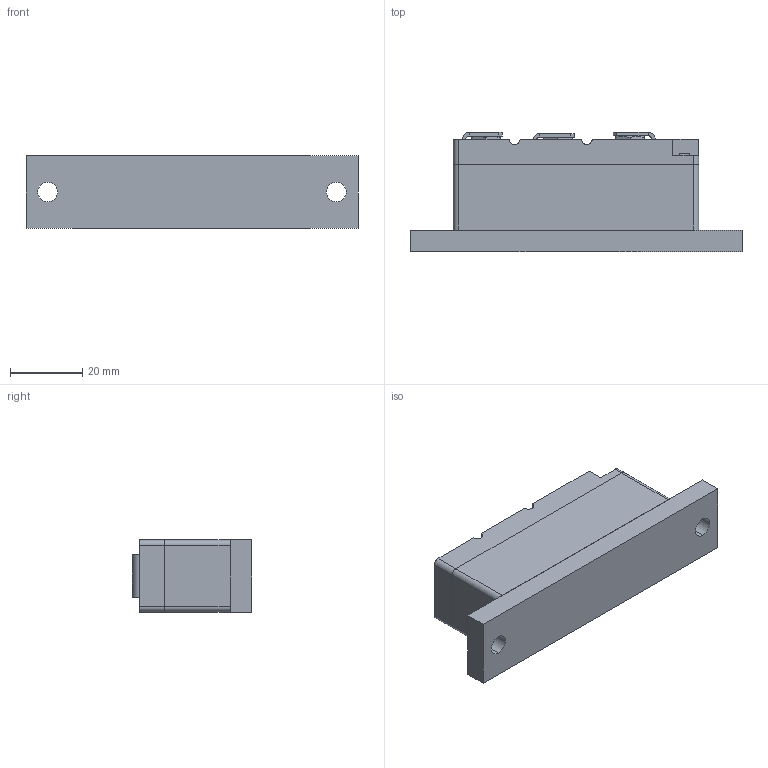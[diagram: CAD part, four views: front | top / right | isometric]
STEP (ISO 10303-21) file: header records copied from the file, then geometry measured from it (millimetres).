
FILE_DESCRIPTION (( 'STEP AP214' ), '1' );
FILE_NAME ('MTD1.STEP', '2021-02-05T10:15:06', ( '' ), ( '' ), 'SwSTEP 2.0', 'SolidWorks 2018', '' );
FILE_SCHEMA (( 'AUTOMOTIVE_DESIGN' ));
Length unit declared in the file: millimetre
Products named in the file (1): MTD1
Bounding box: 92 x 33.13 x 20 mm (x, y, z)
Volume: 24475 mm3; surface area: 21737.3 mm2
Topology: 14 solids, 14 shells, 363 faces, 929 edges, 599 vertices
Faces by surface type: plane 271, cylinder 73, cone 16, sphere 2, bspline 1
Entity records: 15404 total; most frequent: CARTESIAN_POINT 2258, ORIENTED_EDGE 1858, DIRECTION 1791, EDGE_CURVE 929, VECTOR 709, LINE 709, VERTEX_POINT 599, AXIS2_PLACEMENT_3D 541
